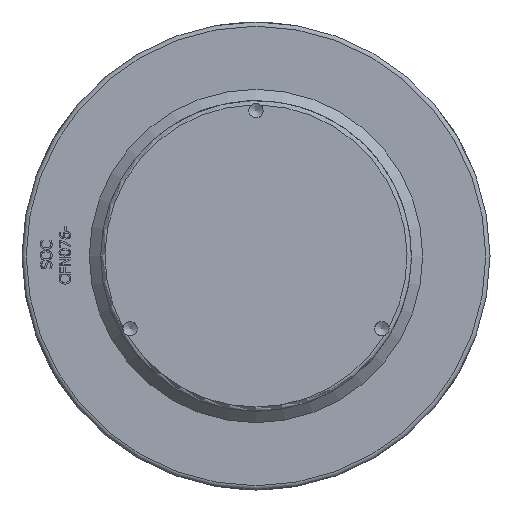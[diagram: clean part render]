
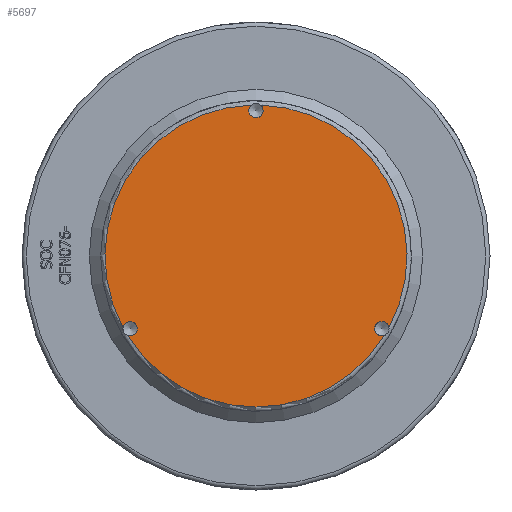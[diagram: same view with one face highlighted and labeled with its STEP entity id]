
A CAD part, front view. The second image highlights one B-rep face of the part: STEP entity #5697.
In plain terms, the highlighted planar face has unit normal (0, -1, 0) as drawn and (0, 1, 0) by its records, which use the part's own axes.
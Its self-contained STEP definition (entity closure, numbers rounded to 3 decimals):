
#1131=PLANE('',#6093);
#1716=FACE_OUTER_BOUND('',#2055,.T.);
#2055=EDGE_LOOP('',(#3948,#3949,#3950,#3951,#3952,#3953));
#2438=CIRCLE('',#6083,5.053);
#2440=CIRCLE('',#6087,5.053);
#2441=CIRCLE('',#6089,106.5);
#2442=CIRCLE('',#6090,106.5);
#2443=CIRCLE('',#6091,106.5);
#2445=CIRCLE('',#6094,5.053);
#2466=VERTEX_POINT('',#7092);
#2467=VERTEX_POINT('',#7093);
#2469=VERTEX_POINT('',#7113);
#2470=VERTEX_POINT('',#7114);
#2471=VERTEX_POINT('',#7131);
#2472=VERTEX_POINT('',#7133);
#3061=EDGE_CURVE('',#2467,#2466,#2438,.T.);
#3064=EDGE_CURVE('',#2470,#2469,#2440,.T.);
#3065=EDGE_CURVE('',#2467,#2471,#2441,.T.);
#3067=EDGE_CURVE('',#2472,#2469,#2442,.T.);
#3068=EDGE_CURVE('',#2470,#2466,#2443,.T.);
#3070=EDGE_CURVE('',#2472,#2471,#2445,.T.);
#3948=ORIENTED_EDGE('',*,*,#3061,.T.);
#3949=ORIENTED_EDGE('',*,*,#3068,.F.);
#3950=ORIENTED_EDGE('',*,*,#3064,.T.);
#3951=ORIENTED_EDGE('',*,*,#3067,.F.);
#3952=ORIENTED_EDGE('',*,*,#3070,.T.);
#3953=ORIENTED_EDGE('',*,*,#3065,.F.);
#5697=ADVANCED_FACE('',(#1716),#1131,.T.);
#6083=AXIS2_PLACEMENT_3D('',#7108,#6271,#6272);
#6087=AXIS2_PLACEMENT_3D('',#7129,#6279,#6280);
#6089=AXIS2_PLACEMENT_3D('',#7132,#6283,#6284);
#6090=AXIS2_PLACEMENT_3D('',#7146,#6285,#6286);
#6091=AXIS2_PLACEMENT_3D('',#7147,#6287,#6288);
#6093=AXIS2_PLACEMENT_3D('',#7150,#6291,#6292);
#6094=AXIS2_PLACEMENT_3D('',#7151,#6293,#6294);
#6271=DIRECTION('center_axis',(0.,-1.,0.));
#6272=DIRECTION('ref_axis',(-0.5,0.,-0.866));
#6279=DIRECTION('center_axis',(0.,-1.,0.));
#6280=DIRECTION('ref_axis',(-0.5,0.,0.866));
#6283=DIRECTION('center_axis',(0.,-1.,0.));
#6284=DIRECTION('ref_axis',(-1.,0.,0.));
#6285=DIRECTION('center_axis',(0.,-1.,0.));
#6286=DIRECTION('ref_axis',(-1.,0.,0.));
#6287=DIRECTION('center_axis',(0.,-1.,0.));
#6288=DIRECTION('ref_axis',(-1.,0.,0.));
#6291=DIRECTION('center_axis',(0.,1.,0.));
#6292=DIRECTION('ref_axis',(0.,0.,1.));
#6293=DIRECTION('center_axis',(0.,-1.,0.));
#6294=DIRECTION('ref_axis',(1.,0.,0.));
#7092=CARTESIAN_POINT('',(90.618,199.5,-55.952));
#7093=CARTESIAN_POINT('',(93.765,199.5,-50.501));
#7108=CARTESIAN_POINT('Origin',(88.768,199.5,-51.25));
#7113=CARTESIAN_POINT('',(-93.765,199.5,-50.501));
#7114=CARTESIAN_POINT('',(-90.618,199.5,-55.952));
#7129=CARTESIAN_POINT('Origin',(-88.768,199.5,-51.25));
#7131=CARTESIAN_POINT('',(3.147,199.5,106.453));
#7132=CARTESIAN_POINT('Origin',(0.,199.5,0.));
#7133=CARTESIAN_POINT('',(-3.147,199.5,106.453));
#7146=CARTESIAN_POINT('Origin',(0.,199.5,0.));
#7147=CARTESIAN_POINT('Origin',(0.,199.5,0.));
#7150=CARTESIAN_POINT('Origin',(109.5,199.5,0.));
#7151=CARTESIAN_POINT('Origin',(0.,199.5,102.5));
